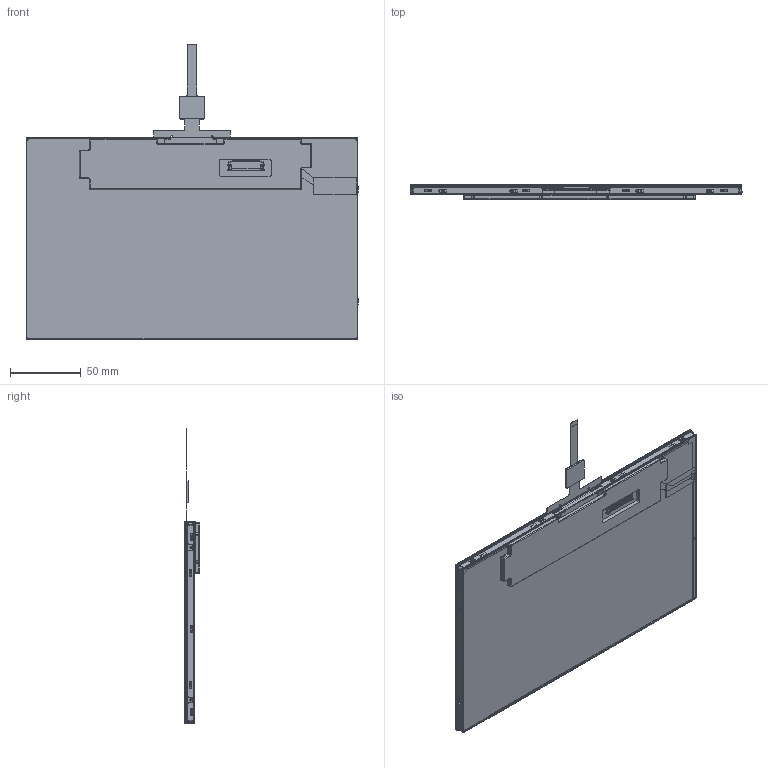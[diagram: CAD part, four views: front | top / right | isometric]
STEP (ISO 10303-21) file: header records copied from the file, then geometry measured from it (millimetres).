
FILE_DESCRIPTION (( 'STEP AP203' ), '1' );
FILE_NAME ('NHD-10.1-1024600BF-ASXP-CTP.STEP', '2022-07-18T16:37:53', ( '' ), ( '' ), 'SwSTEP 2.0', 'SolidWorks 2019', '' );
FILE_SCHEMA (( 'CONFIG_CONTROL_DESIGN' ));
Products named in the file (1): NHD-10.1-1024600BF-ASXP-CTP
Bounding box: 235.02 x 10.79 x 209.49 mm (x, y, z)
Volume: 195139 mm3; surface area: 585565.6 mm2
Topology: 19 solids, 19 shells, 2942 faces, 8841 edges, 5797 vertices
Faces by surface type: plane 2354, cylinder 524, bspline 63, torus 1
Entity records: 99520 total; most frequent: CARTESIAN_POINT 19216, ORIENTED_EDGE 17646, DIRECTION 15552, EDGE_CURVE 8823, LINE 7690, VECTOR 7690, VERTEX_POINT 5797, AXIS2_PLACEMENT_3D 3931
